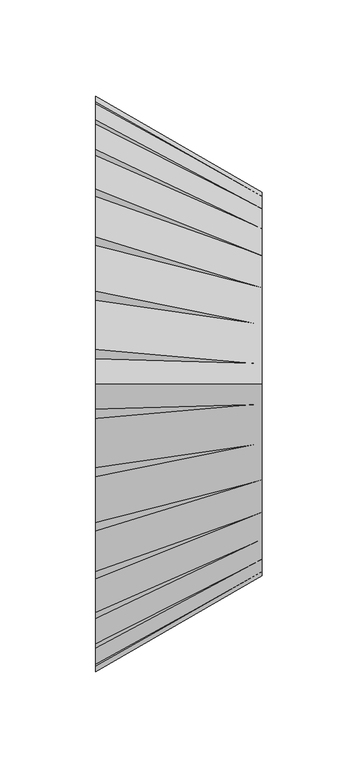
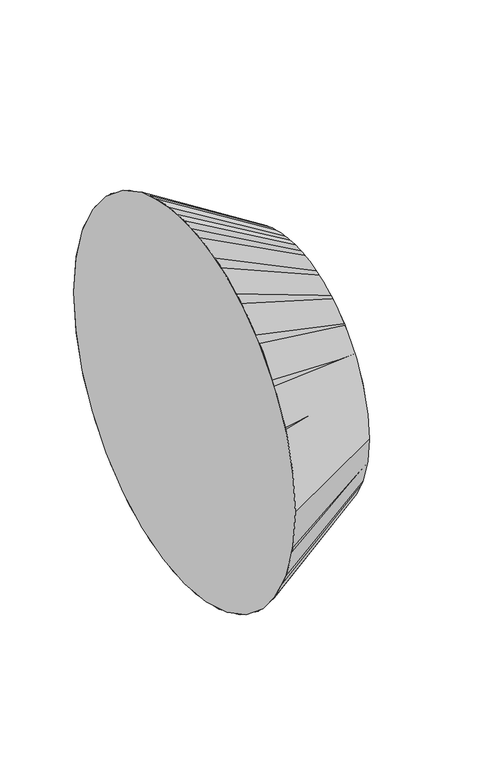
"""IFC4 building model written with IfcOpenShell, lengths in millimetres: duct fitting geometry, magicirc_reduction_001 : magicirc_reduction_001."""

from ifc_helpers import new_model, si_unit, frame, origin, place, context, project, spatial, polyline, circle_curve, source, transform, mapped, element, save
from ifc_brep_helpers import plane_surface, revolved_surface, advanced_brep


def duct_fitting_d48112b4(model_context):
    return source(origin(), model_context, "Body", "AdvancedBrep", [
        advanced_brep(
        [(86.6025404, -100.0, 0.0), (86.6025404, 0.0, -100.0), (86.6025404, 100.0, 0.0), (86.6025404, 0.0, 100.0), (0.0, -150.0, 0.0), (0.0, 0.0, 150.0), (0.0, 150.0, 0.0), (0.0, 0.0, -150.0)],
        [
            (0, 1, circle_curve(frame((86.6025404, 0.0, 0.0), z_axis=(1.0, 0.0, 0.0), x_axis=(0.0, -1.0, 0.0)), 100.0)),
            (1, 2, circle_curve(frame((86.6025404, 0.0, 0.0), z_axis=(1.0, 0.0, 0.0), x_axis=(0.0, 0.0, -1.0)), 100.0)),
            (2, 3, circle_curve(frame((86.6025404, 0.0, 0.0), z_axis=(1.0, 0.0, 0.0), x_axis=(0.0, 1.0, 0.0)), 100.0)),
            (3, 0, circle_curve(frame((86.6025404, 0.0, 0.0), z_axis=(1.0, 0.0, 0.0), x_axis=(0.0, 0.0, 1.0)), 100.0)),
            (4, 5, circle_curve(frame((0.0, 0.0, 0.0), z_axis=(-1.0, 0.0, 0.0), x_axis=(0.0, 0.0, 1.0)), 150.0)),
            (5, 6, circle_curve(frame((0.0, 0.0, 0.0), z_axis=(-1.0, 0.0, 0.0), x_axis=(0.0, 1.0, 0.0)), 150.0)),
            (6, 7, circle_curve(frame((0.0, 0.0, 0.0), z_axis=(-1.0, 0.0, 0.0), x_axis=(0.0, 0.0, -1.0)), 150.0)),
            (7, 4, circle_curve(frame((0.0, 0.0, 0.0), z_axis=(-1.0, 0.0, 0.0), x_axis=(0.0, -1.0, 0.0)), 150.0)),
            (7, 1),
            (0, 4),
            (6, 2),
            (5, 3),
        ],
        [
            plane_surface(frame((86.6025404, 0.0, 0.0), z_axis=(1.0, 0.0, 0.0), x_axis=(0.0, 0.0, -1.0))),
            plane_surface(frame((0.0, 0.0, 0.0), z_axis=(-1.0, 0.0, 0.0), x_axis=(0.0, 0.0, -1.0))),
            revolved_surface(polyline([(86.60254040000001, -99.99999998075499, 0.0), (0.0, -150.0, 0.0)]), (259.8076211, 0.0, 0.0), (-1.0, 0.0, 0.0)),
            revolved_surface(polyline([(86.60254040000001, 0.0, -99.99999998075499), (0.0, 0.0, -150.0)]), (259.8076211, 0.0, 0.0), (-1.0, 0.0, 0.0)),
            revolved_surface(polyline([(86.60254040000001, 99.99999998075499, 0.0), (0.0, 150.0, 0.0)]), (259.8076211, 0.0, 0.0), (-1.0, 0.0, 0.0)),
            revolved_surface(polyline([(86.60254040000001, 0.0, 99.99999998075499), (0.0, 0.0, 150.0)]), (259.8076211, 0.0, 0.0), (-1.0, 0.0, 0.0)),
        ],
        [
            (0, [[1, 2, 3, 4]]),
            (1, [[5, 6, 7, 8]]),
            (2, [[-8, 9, -1, 10]]),
            (3, [[-7, 11, -2, -9]]),
            (4, [[-6, 12, -3, -11]]),
            (5, [[-5, -10, -4, -12]]),
        ],
    ),
        advanced_brep(
        [(0.0, -150.0, 0.0), (0.0, 0.0, 150.0), (0.0, 150.0, 0.0), (0.0, 0.0, -150.0), (86.6025404, -100.0, 0.0), (86.6025404, 0.0, -100.0), (86.6025404, 100.0, 0.0), (86.6025404, 0.0, 100.0)],
        [
            (0, 1, circle_curve(frame((0.0, 0.0, 0.0), z_axis=(-1.0, 0.0, 0.0), x_axis=(0.0, -1.0, 0.0)), 150.0)),
            (1, 2, circle_curve(frame((0.0, 0.0, 0.0), z_axis=(-1.0, 0.0, 0.0), x_axis=(0.0, 0.0, 1.0)), 150.0)),
            (2, 3, circle_curve(frame((0.0, 0.0, 0.0), z_axis=(-1.0, 0.0, 0.0), x_axis=(0.0, 1.0, 0.0)), 150.0)),
            (3, 0, circle_curve(frame((0.0, 0.0, 0.0), z_axis=(-1.0, 0.0, 0.0), x_axis=(0.0, 0.0, -1.0)), 150.0)),
            (4, 5, circle_curve(frame((86.6025404, 0.0, 0.0), z_axis=(1.0, 0.0, 0.0), x_axis=(0.0, 0.0, -1.0)), 100.0)),
            (5, 6, circle_curve(frame((86.6025404, 0.0, 0.0), z_axis=(1.0, 0.0, 0.0), x_axis=(0.0, 1.0, 0.0)), 100.0)),
            (6, 7, circle_curve(frame((86.6025404, 0.0, 0.0), z_axis=(1.0, 0.0, 0.0), x_axis=(0.0, 0.0, 1.0)), 100.0)),
            (7, 4, circle_curve(frame((86.6025404, 0.0, 0.0), z_axis=(1.0, 0.0, 0.0), x_axis=(0.0, -1.0, 0.0)), 100.0)),
            (7, 1),
            (0, 4),
            (6, 2),
            (5, 3),
        ],
        [
            plane_surface(frame((0.0, 0.0, 0.0), z_axis=(-1.0, 0.0, 0.0), x_axis=(0.0, 0.0, -1.0))),
            plane_surface(frame((86.6025404, 0.0, 0.0), z_axis=(1.0, 0.0, 0.0), x_axis=(0.0, 0.0, -1.0))),
            revolved_surface(polyline([(86.60254040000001, 0.0, 99.99999998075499), (0.0, 0.0, 150.0)]), (259.8076211, 0.0, 0.0), (-1.0, 0.0, 0.0)),
            revolved_surface(polyline([(86.60254040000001, 99.99999998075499, 0.0), (0.0, 150.0, 0.0)]), (259.8076211, 0.0, 0.0), (-1.0, 0.0, 0.0)),
            revolved_surface(polyline([(86.60254040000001, 0.0, -99.99999998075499), (0.0, 0.0, -150.0)]), (259.8076211, 0.0, 0.0), (-1.0, 0.0, 0.0)),
            revolved_surface(polyline([(86.60254040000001, -99.99999998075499, 0.0), (0.0, -150.0, 0.0)]), (259.8076211, 0.0, 0.0), (-1.0, 0.0, 0.0)),
        ],
        [
            (0, [[1, 2, 3, 4]]),
            (1, [[5, 6, 7, 8]]),
            (2, [[-8, 9, -1, 10]]),
            (3, [[-7, 11, -2, -9]]),
            (4, [[-6, 12, -3, -11]]),
            (5, [[-5, -10, -4, -12]]),
        ],
    ),
        advanced_brep(
        [(86.6025404, -100.0, 0.0), (86.6025404, 100.0, 0.0), (0.0, -150.0, 0.0), (0.0, 150.0, 0.0)],
        [
            (0, 1, circle_curve(frame((86.6025404, 0.0, 0.0), z_axis=(1.0, 0.0, 0.0), x_axis=(0.0, -1.0, 0.0)), 100.0)),
            (1, 0, circle_curve(frame((86.6025404, 0.0, 0.0), z_axis=(1.0, 0.0, 0.0), x_axis=(0.0, 1.0, 0.0)), 100.0)),
            (2, 3, circle_curve(frame((0.0, 0.0, 0.0), z_axis=(-1.0, 0.0, 0.0), x_axis=(0.0, 1.0, 0.0)), 150.0)),
            (3, 2, circle_curve(frame((0.0, 0.0, 0.0), z_axis=(-1.0, 0.0, 0.0), x_axis=(0.0, -1.0, 0.0)), 150.0)),
            (3, 1),
            (0, 2),
        ],
        [
            plane_surface(frame((86.6025404, 0.0, 0.0), z_axis=(1.0, 0.0, 0.0), x_axis=(0.0, 0.0, -1.0))),
            plane_surface(frame((0.0, 0.0, 0.0), z_axis=(-1.0, 0.0, 0.0), x_axis=(0.0, 0.0, -1.0))),
            revolved_surface(polyline([(86.60254040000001, -99.99999998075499, 0.0), (0.0, -150.0, 0.0)]), (259.8076211, 0.0, 0.0), (-1.0, 0.0, 0.0)),
            revolved_surface(polyline([(86.60254040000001, 99.99999998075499, 0.0), (0.0, 150.0, 0.0)]), (259.8076211, 0.0, 0.0), (-1.0, 0.0, 0.0)),
        ],
        [
            (0, [[1, 2]]),
            (1, [[3, 4]]),
            (2, [[-4, 5, -1, 6]]),
            (3, [[-3, -6, -2, -5]]),
        ],
    ),
    ])


if __name__ == "__main__":
    model = new_model("IFC4")
    model_context = context("Model", 3, world=origin())
    ifc_project = project(units=[si_unit("LENGTHUNIT", "METRE", prefix="MILLI")], contexts=[model_context])
    site = spatial("IfcSite", under=ifc_project)
    building = spatial("IfcBuilding", under=site)
    placement = place(None, origin())
    duct_fitting_shape = duct_fitting_d48112b4(model_context)
    element("IfcDuctFitting", 1, ObjectType="magicirc_reduction_001 : magicirc_reduction_001", at=placement, inside=building, context=model_context, shape_type="MappedRepresentation", body=[
        mapped(duct_fitting_shape, transform((0.0, 0.0, 0.0), x_axis=(1.0, 0.0, 0.0), y_axis=(0.0, 1.0, 0.0), z_axis=(0.0, 0.0, 1.0))),
    ])
    save(model, "model.ifc")
